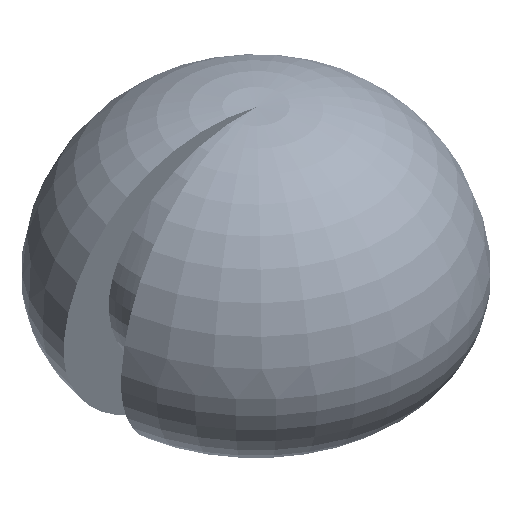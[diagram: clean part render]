
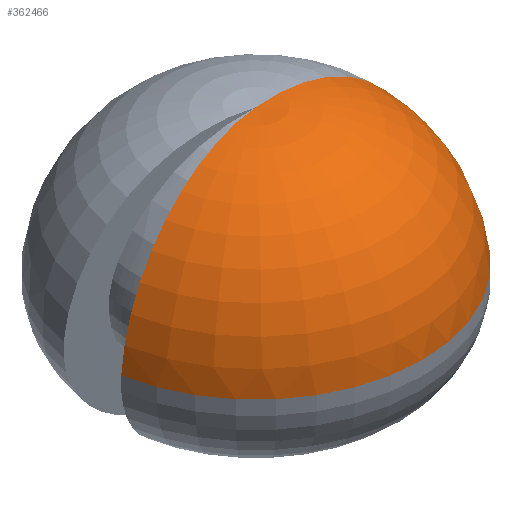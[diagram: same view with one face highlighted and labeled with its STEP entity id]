
A CAD part, isometric view. The second image highlights one B-rep face of the part: STEP entity #362466.
In plain terms, the highlighted toroidal (fillet/blend) face has major radius 320 mm and minor radius 2885.06 mm.
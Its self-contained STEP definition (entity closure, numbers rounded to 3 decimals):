
#24032 = VERTEX_POINT ( 'NONE', #224178 ) ;
#27773 = CARTESIAN_POINT ( 'NONE',  ( -315.138, -55.567, 780. ) ) ;
#56128 = EDGE_CURVE ( 'NONE', #24032, #357538, #480791, .T. ) ;
#79395 = CARTESIAN_POINT ( 'NONE',  ( 0., 0., 1031.449 ) ) ;
#83959 = CARTESIAN_POINT ( 'NONE',  ( 0., 0., 780. ) ) ;
#147698 = DIRECTION ( 'NONE',  ( 0., 0., 1. ) ) ;
#174559 = AXIS2_PLACEMENT_3D ( 'NONE', #353051, #192435, #437266 ) ;
#179722 = AXIS2_PLACEMENT_3D ( 'NONE', #79395, #462773, #329689 ) ;
#192435 = DIRECTION ( 'NONE',  ( 0., -1., 0. ) ) ;
#209127 = DIRECTION ( 'NONE',  ( 1., 0., 0. ) ) ;
#211482 = ORIENTED_EDGE ( 'NONE', *, *, #509485, .T. ) ;
#218090 = CIRCLE ( 'NONE', #174559, 2885.057 ) ;
#224178 = CARTESIAN_POINT ( 'NONE',  ( 0., 0., 3647.255 ) ) ;
#231979 = DIRECTION ( 'NONE',  ( 0.174, -0.985, 0. ) ) ;
#246265 = AXIS2_PLACEMENT_3D ( 'NONE', #27773, #231979, #147698 ) ;
#283347 = AXIS2_PLACEMENT_3D ( 'NONE', #83959, #339618, #209127 ) ;
#312481 = EDGE_CURVE ( 'NONE', #367393, #24032, #218090, .T. ) ;
#329689 = DIRECTION ( 'NONE',  ( 1., 0., 0. ) ) ;
#339618 = DIRECTION ( 'NONE',  ( 0., 0., 1. ) ) ;
#353051 = CARTESIAN_POINT ( 'NONE',  ( 320., 0., 780. ) ) ;
#356031 = ORIENTED_EDGE ( 'NONE', *, *, #312481, .T. ) ;
#357538 = VERTEX_POINT ( 'NONE', #514362 ) ;
#362466 = ADVANCED_FACE ( 'NONE', ( #502844 ), #439415, .T. ) ;
#367393 = VERTEX_POINT ( 'NONE', #426454 ) ;
#375339 = ORIENTED_EDGE ( 'NONE', *, *, #56128, .T. ) ;
#410204 = EDGE_LOOP ( 'NONE', ( #211482, #356031, #375339 ) ) ;
#426454 = CARTESIAN_POINT ( 'NONE',  ( 3194.078, 0., 1031.449 ) ) ;
#437266 = DIRECTION ( 'NONE',  ( 0., 0., -1. ) ) ;
#439415 = TOROIDAL_SURFACE ( 'NONE', #283347, 320., 2885.057 ) ;
#462773 = DIRECTION ( 'NONE',  ( 0., 0., 1. ) ) ;
#480791 = CIRCLE ( 'NONE', #246265, 2885.057 ) ;
#502844 = FACE_OUTER_BOUND ( 'NONE', #410204, .T. ) ;
#509485 = EDGE_CURVE ( 'NONE', #357538, #367393, #509864, .T. ) ;
#509864 = CIRCLE ( 'NONE', #179722, 3194.078 ) ;
#514362 = CARTESIAN_POINT ( 'NONE',  ( -3145.553, -554.646, 1031.449 ) ) ;
